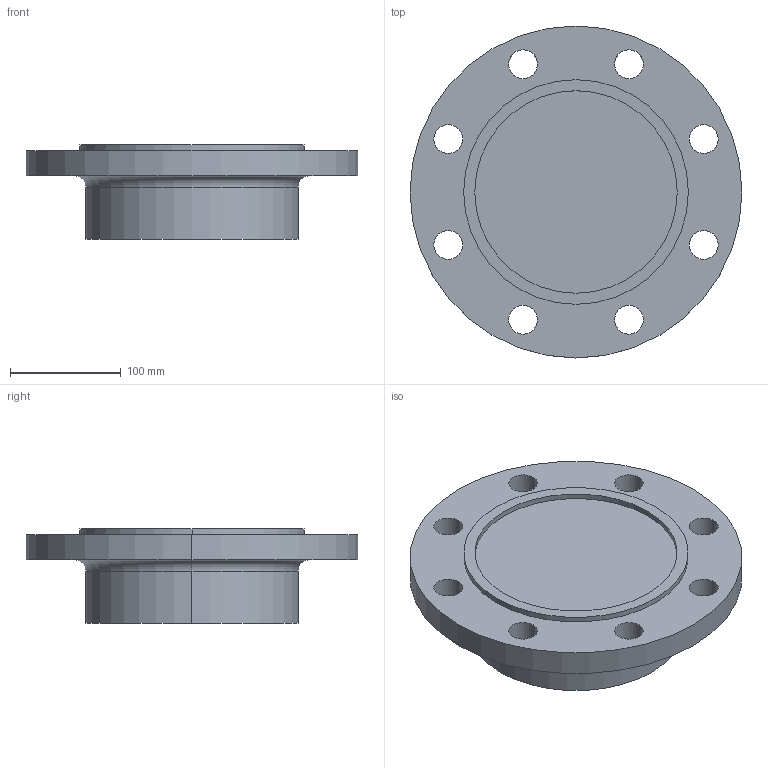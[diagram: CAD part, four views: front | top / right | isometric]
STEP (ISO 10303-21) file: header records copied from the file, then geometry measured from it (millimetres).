
FILE_DESCRIPTION (( 'STEP AP214' ), '1' );
FILE_NAME ('PN40 DN150 Type 21(i) - Type C Face.STEP', '2019-01-04T21:55:12', ( '' ), ( '' ), 'SwSTEP 2.0', 'SolidWorks 2019', '' );
FILE_SCHEMA (( 'AUTOMOTIVE_DESIGN' ));
Length unit declared in the file: millimetre
Products named in the file (1): PN40 DN150 Type 21(i) - Type C Face
Bounding box: 300 x 300 x 85 mm (x, y, z)
Volume: 3221961.6 mm3; surface area: 207483.6 mm2
Topology: 1 solids, 1 shells, 31 faces, 76 edges, 50 vertices
Faces by surface type: cylinder 24, plane 5, torus 2
Entity records: 1012 total; most frequent: DIRECTION 192, CARTESIAN_POINT 158, ORIENTED_EDGE 152, AXIS2_PLACEMENT_3D 84, EDGE_CURVE 76, CIRCLE 52, VERTEX_POINT 50, EDGE_LOOP 50
